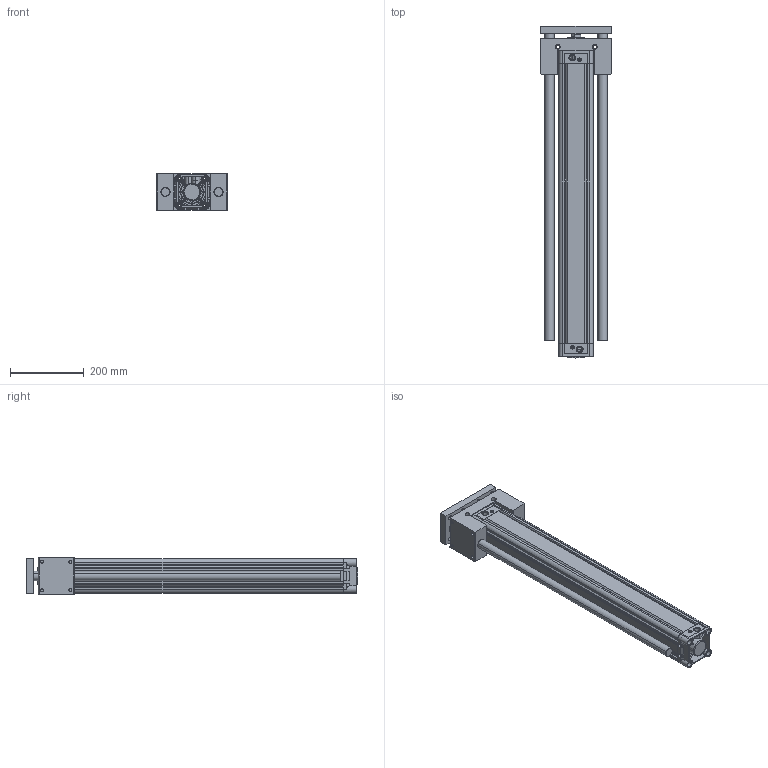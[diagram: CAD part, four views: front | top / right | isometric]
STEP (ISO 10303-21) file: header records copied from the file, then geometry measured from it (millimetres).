
FILE_DESCRIPTION (( 'STEP AP203' ), '1' );
FILE_NAME ('KDNC80X700-U-YATAK.STEP', '2016-09-08T07:06:19', ( 'user' ), ( '' ), 'SwSTEP 2.0', 'SolidWorks 2013', '' );
FILE_SCHEMA (( 'CONFIG_CONTROL_DESIGN' ));
Length unit declared in the file: millimetre
Products named in the file (9): 烰 KAPAK  80; Piston Mili U YATAKLAMA 80x700; KDNC80X700-U-YATAK; DNC-U-YATAK 80; DNC-U-YATAK M尳 80X700; DNC-U-YATAK TABLA 80; ARKA KAPAK  80; KDNC 80x700 BORU; ORTA PÝSTON 80
Assembly tree (9 placements, depth 2):
  KDNC80X700-U-YATAK
    DNC-U-YATAK 80
    DNC-U-YATAK M尳 80X700  x2
    DNC-U-YATAK TABLA 80
    ARKA KAPAK  80
    KDNC 80x700 BORU
    ORTA PÝSTON 80
    烰 KAPAK  80
    Piston Mili U YATAKLAMA 80x700
Bounding box: 191 x 898.5 x 98 mm (x, y, z)
Volume: 5242883.3 mm3; surface area: 1187916.5 mm2
Topology: 9 solids, 9 shells, 1180 faces, 3124 edges, 2013 vertices
Faces by surface type: cylinder 491, plane 395, cone 200, bspline 92, torus 2
Entity records: 49649 total; most frequent: CARTESIAN_POINT 21377, ORIENTED_EDGE 6200, DIRECTION 4888, EDGE_CURVE 3100, VERTEX_POINT 2005, AXIS2_PLACEMENT_3D 1780, EDGE_LOOP 1329, LINE 1328
